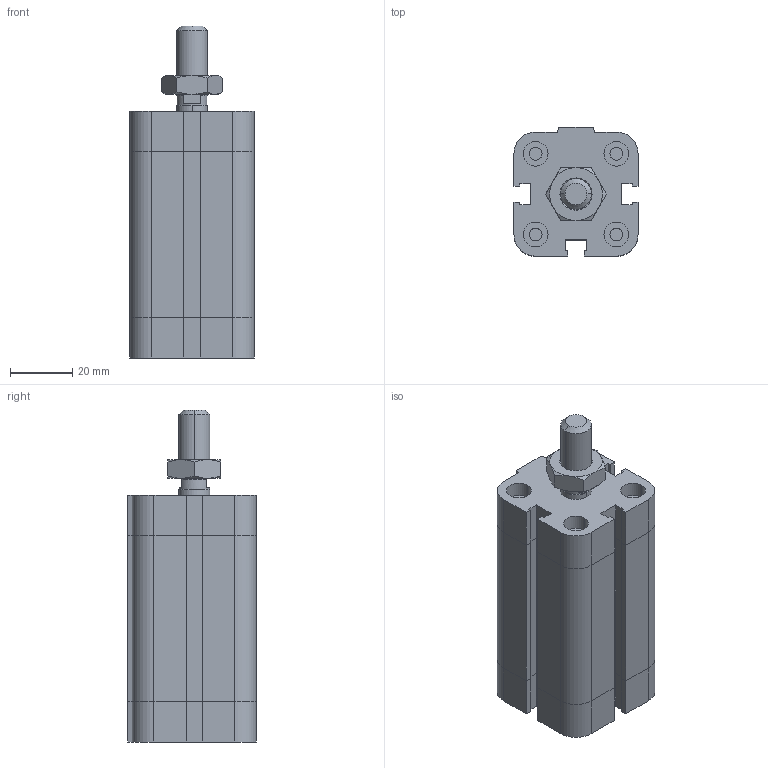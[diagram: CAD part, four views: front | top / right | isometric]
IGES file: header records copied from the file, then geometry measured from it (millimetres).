
Global section: file name: No Iges File Name specified; native system: Autodesk Inventor 2009; preprocessor: AutoDesk Inventor Iges Exporter R2009; author: rivolro1; date: 20081219.161710; units: millimetre
Bounding box: 40 x 41.5 x 107 mm (x, y, z)
Volume: 116822.2 mm3; surface area: 26510.1 mm2
Topology: 3 solids, 3 shells, 216 faces, 472 edges, 282 vertices
Faces by surface type: plane 121, bspline 37, cylinder 20, cone 20, revolution 18
